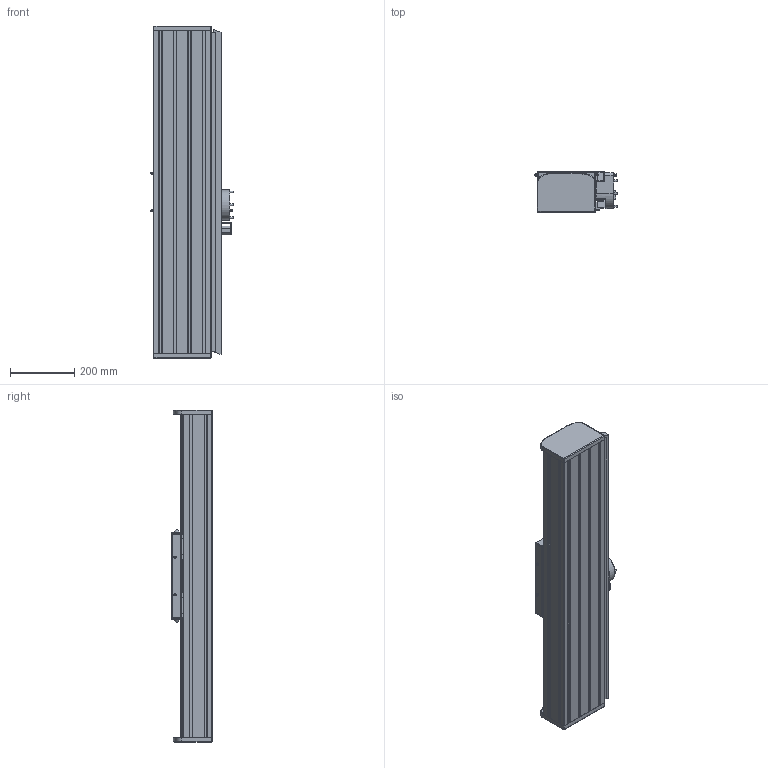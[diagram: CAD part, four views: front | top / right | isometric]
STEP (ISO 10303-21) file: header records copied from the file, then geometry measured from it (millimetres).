
FILE_DESCRIPTION(/* description */ ('00'),/* implementation_level */ '2;1');
FILE_NAME(/* name */ 'D:\EVOLVE\STUDIO_EVOLVE\LIBRERIA_MODELLI\UNITÀ_RACK_SERIE_A\URA_SIMPLIFIED\URA_180_M_TSNP025_X0710.stp',/* time_stamp */ '2022-04-13T17:08:18+02:00',/* author */ ('Daniel'),/* organization */ (''),/* preprocessor_version */ 'ST-DEVELOPER v18.1',/* originating_system */ 'Autodesk Inventor 2021',/* authorisation */ '');
FILE_SCHEMA (('AUTOMOTIVE_DESIGN { 1 0 10303 214 3 1 1 }'));
Products named in the file (3): URA_180_M_TSNP025_X0710; AS_URA_180_L1000_SIMPLIFIED; CR_URA_180_M_TSNP025_SIMPLIFIED
Assembly tree (2 placements, depth 2):
  URA_180_M_TSNP025_X0710
    AS_URA_180_L1000_SIMPLIFIED
    CR_URA_180_M_TSNP025_SIMPLIFIED
Bounding box: 257.6 x 125 x 1030 mm (x, y, z)
Volume: 17939980.4 mm3; surface area: 1700348.9 mm2
Topology: 99 solids, 100 shells, 2221 faces, 5728 edges, 3763 vertices
Faces by surface type: plane 1537, cylinder 432, bspline 137, cone 60, torus 30, sphere 25
Full cylindrical faces by diameter (mm): 6 x4, 6.647 x12, 8 x4, 9.5 x100, 12 x1, 20 x4, 27 x2, 40 x1, 41 x2, 60 x1, 68 x1
Entity records: 70395 total; most frequent: CARTESIAN_POINT 15626, ORIENTED_EDGE 11424, DIRECTION 10454, EDGE_CURVE 5712, LINE 4160, VECTOR 4160, VERTEX_POINT 3763, AXIS2_PLACEMENT_3D 3147
